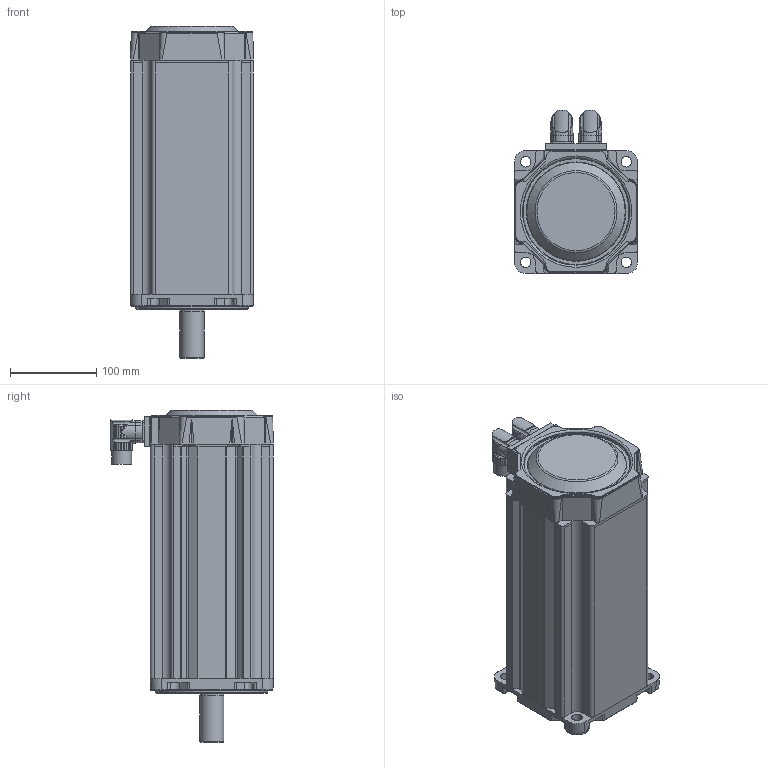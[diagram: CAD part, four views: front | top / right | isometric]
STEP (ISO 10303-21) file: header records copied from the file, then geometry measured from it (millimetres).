
FILE_DESCRIPTION((''),'2;1');
FILE_NAME('C:\Documents and Settings\jevans\My Documents\Engineering Projects\MPJ\MPJ1426XXX_NPSN.stp','2007-05-02T10:46:25',('jevans'),(''),'Autodesk Inventor 11','Autodesk Inventor 11','');
FILE_SCHEMA(('AUTOMOTIVE_DESIGN { 1 0 10303 214 1 1 1 1 }'));
Length unit declared in the file: inch
Products named in the file (4): MPJ1426XXX_NPSN; MPP142_MOTOR_1; MPP142_MOTOR_2; MPP142_MOTOR_3
Assembly tree (3 placements, depth 2):
  MPJ1426XXX_NPSN
    MPP142_MOTOR_1
    MPP142_MOTOR_2
    MPP142_MOTOR_3
Bounding box: 142.75 x 188.8 x 385.32 mm (x, y, z)
Volume: 5705524.9 mm3; surface area: 290846.5 mm2
Topology: 3 solids, 3 shells, 893 faces, 2261 edges, 1418 vertices
Faces by surface type: cylinder 401, plane 283, bspline 146, cone 39, torus 22, sphere 2
Full cylindrical faces by diameter (mm): 0.178 x1, 1.143 x17, 2.032 x6, 2.794 x2, 6.401 x8, 8.382 x1, 12.217 x4, 19.05 x2, 19.685 x2, 22.86 x2, 27.645 x1, 28.001 x1, 29.921 x1, 29.997 x1, 36.83 x1, 55.88 x1, 66.04 x1, 71.526 x1, 72.009 x1, 72.034 x2, 76.352 x1, 80.95 x1, 124.46 x1, 129.997 x1
Entity records: 34287 total; most frequent: CARTESIAN_POINT 13916, ORIENTED_EDGE 4310, DIRECTION 3967, EDGE_CURVE 2155, AXIS2_PLACEMENT_3D 1520, VERTEX_POINT 1398, EDGE_LOOP 1041, VECTOR 927
